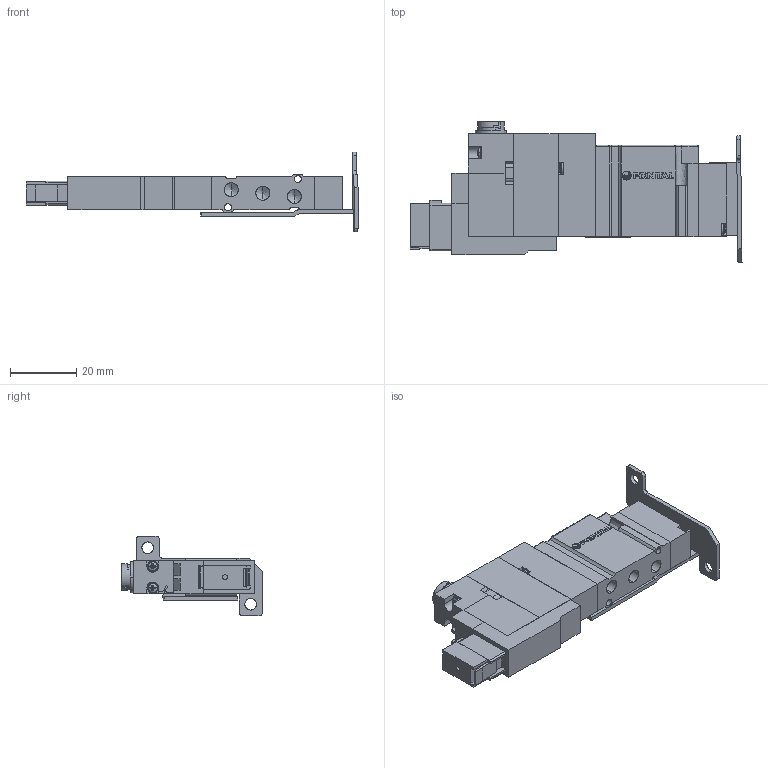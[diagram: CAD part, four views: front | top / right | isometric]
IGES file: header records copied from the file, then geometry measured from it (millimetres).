
Start section: SolidWorks IGES file using analytic representation for surfaces
Global section: file name: D:\Custom\3D繪製\ADEX\A05F\A05FS25#-BF-#-#-E.IGS,1; native system: 5HSolidWorks 2014; preprocessor: SolidWorks 2014; author: Chieh_Lu; date: 150809.154308; units: millimetre
Bounding box: 99.94 x 42.34 x 24 mm (x, y, z)
Surface area: 18030.3 mm2 (no closed solid volume)
Topology: 0 solids, 0 shells, 740 faces, 6262 edges, 6234 vertices
Faces by surface type: bspline 498, revolution 242
